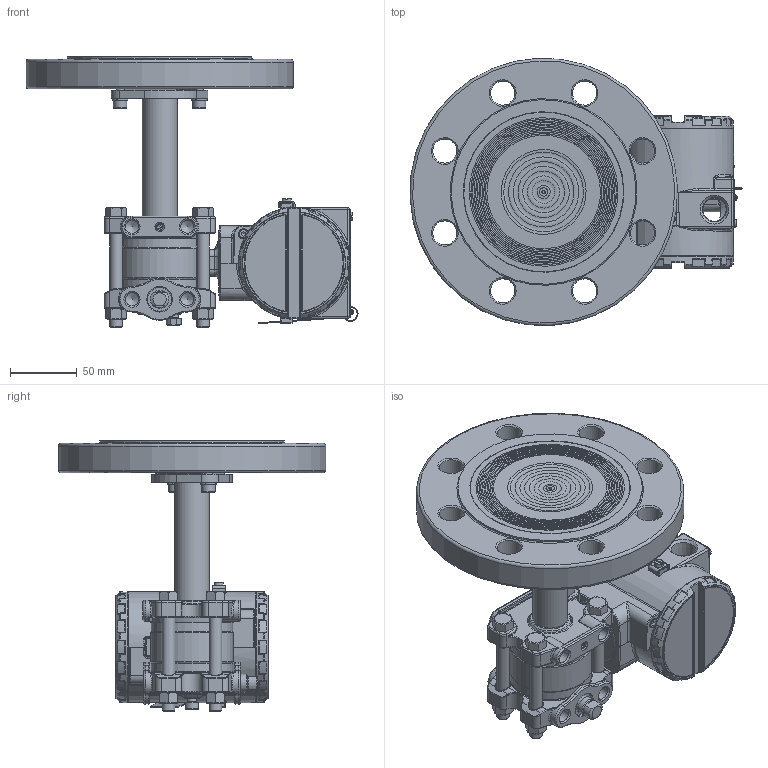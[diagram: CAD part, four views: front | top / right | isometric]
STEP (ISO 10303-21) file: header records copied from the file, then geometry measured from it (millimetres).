
FILE_DESCRIPTION(/* description */ (''),/* implementation_level */ '2;1');
FILE_NAME(/* name */ 'F:\Area\Desenvolvimento_2\Projects\Sensor\projetos\LD30X\montagens 3d - clientes\SELO NIVEL\LD30XL DN80 PN40 RF ref 1-4NPT purga acima.stp',/* time_stamp */ '2023-02-15T11:25:36-03:00',/* author */ ('inventor02'),/* organization */ (''),/* preprocessor_version */ 'ST-DEVELOPER v17',/* originating_system */ 'Autodesk Inventor 2019',/* authorisation */ '');
FILE_SCHEMA (('CONFIG_CONTROL_DESIGN'));
Products named in the file (38): LD30XL DN80 PN40 RF ref 1-4NPT purga acima; 204-0301-L-DN80 PN40 RF purga acima; nivel fx3 com baixa diferencial 1-4NPT purga acima; involucro fx0-3 apos a usinagem final; flange diferencial std purga; 101-C-7484-01 flange selo nivel VR; 201-A-0504-tubo união teste 1; bujao 1-4NPT; Sangria; Porca 3-8 x 16 UNC; Paraf. 3-8 x 16 UNC; adaptação tubo x flanges 1-1-2 a 4pol; 101-B-0161-anel cortado do tubo - teste1; 101-B-0162-flange fixação tubo; ANSI B18.3.1M - M6x1 x 16; DIN 127 - A 6; 101-C-0136-11; carcaça vazia com tampas e plaqueta; carcaça LD inox sem letras; Subconjunto plaqueta 300; Plaqueta transmissor; Parafuso da Plaqueta; Rebite da Plaqueta; 096-A-0169-03; 101-A-0502-01; Chapa aterramento externo; ISO 1207 - M4 x 8; DIN 915 - M6 x 10; ANSI B18.3.1M - M4x0,7 x 8; Subconjunto tampa com visor aluminio; tampa pintada; VIDRO DO VISOR; oring 41x1 vidro tampa; Trava do vidro da tampa com visor; trava do vidro VH256; Subconjunto tampa sem visor-aluminio; tampa cega 300 pintada p0; 00034775-0
Assembly tree (48 placements, depth 4):
  LD30XL DN80 PN40 RF ref 1-4NPT purga acima
    204-0301-L-DN80 PN40 RF purga acima
      nivel fx3 com baixa diferencial 1-4NPT purga acima
        involucro fx0-3 apos a usinagem final
        flange diferencial std purga
        101-C-7484-01 flange selo nivel VR
        201-A-0504-tubo união teste 1
        DIN 915 - M6 x 10
        bujao 1-4NPT
        Sangria
        Porca 3-8 x 16 UNC  x4
        Paraf. 3-8 x 16 UNC  x4
      adaptação tubo x flanges 1-1-2 a 4pol
        101-B-0161-anel cortado do tubo - teste1
        101-B-0162-flange fixação tubo
        ANSI B18.3.1M - M6x1 x 16  x2
        DIN 127 - A 6  x2
      101-C-0136-11
    carcaça vazia com tampas e plaqueta
      carcaça LD inox sem letras
      Subconjunto plaqueta 300
        Plaqueta transmissor
        Parafuso da Plaqueta
        Rebite da Plaqueta
        096-A-0169-03
        101-A-0502-01
      Chapa aterramento externo
      ISO 1207 - M4 x 8
      DIN 915 - M6 x 10
      ANSI B18.3.1M - M4x0,7 x 8  x2
      Subconjunto tampa com visor aluminio
        tampa pintada
        VIDRO DO VISOR
        oring 41x1 vidro tampa
        Trava do vidro da tampa com visor
        trava do vidro VH256
        00034775-0
      Subconjunto tampa sem visor-aluminio
        tampa cega 300 pintada p0
        00034775-0
Bounding box: 248.18 x 199.81 x 202.3 mm (x, y, z)
Volume: 1272505.3 mm3; surface area: 339060 mm2
Topology: 41 solids, 41 shells, 2693 faces, 6457 edges, 3807 vertices
Faces by surface type: bspline 667, cylinder 652, plane 547, torus 451, cone 250, sphere 126
Full cylindrical faces by diameter (mm): 2 x4, 2.1 x2, 2.459 x5, 2.5 x1, 2.642 x1, 2.7 x1, 2.8 x1, 3 x4, 3.242 x4, 3.5 x5, 3.571 x1, 4 x5, 4.3 x1, 4.4 x1, 4.917 x4, 5 x1, 5.5 x3, 6 x6, 6.647 x1, 7 x7, 7.087 x2, 7.6 x2, 7.798 x4, 8 x1, 8.7 x2, 9.525 x4, 9.728 x6, 10 x2, 10.5 x8, 10.719 x2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
Entity records: 93144 total; most frequent: CARTESIAN_POINT 34426, ORIENTED_EDGE 12094, DIRECTION 12067, EDGE_CURVE 6047, AXIS2_PLACEMENT_3D 5313, VERTEX_POINT 3613, CIRCLE 3137, EDGE_LOOP 2728
